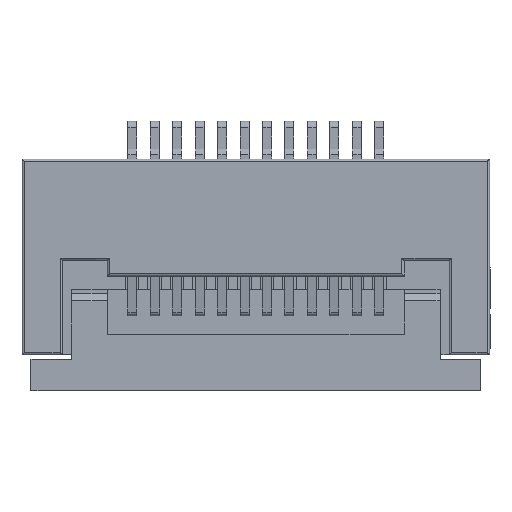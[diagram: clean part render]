
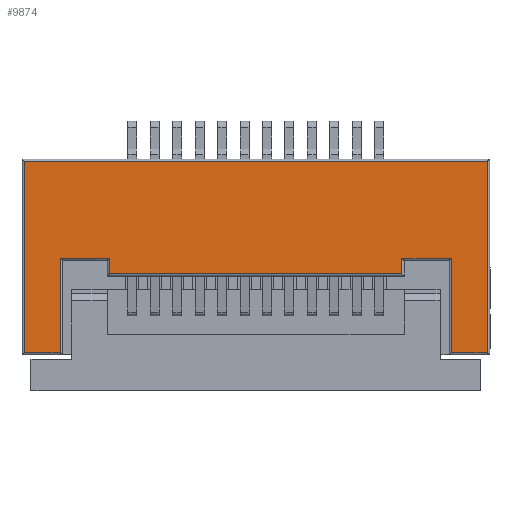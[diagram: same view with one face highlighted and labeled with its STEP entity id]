
A CAD part, top view. The second image highlights one B-rep face of the part: STEP entity #9874.
In plain terms, the highlighted planar face has unit normal (0, 0, 1).
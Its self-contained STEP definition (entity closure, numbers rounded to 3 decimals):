
#394 = ORIENTED_EDGE ( 'NONE', *, *, #14808, .T. ) ;
#684 = VECTOR ( 'NONE', #20167, 1000. ) ;
#1175 = CARTESIAN_POINT ( 'NONE',  ( -4.1, -2.175, 1. ) ) ;
#1505 = FACE_OUTER_BOUND ( 'NONE', #6935, .T. ) ;
#1624 = VERTEX_POINT ( 'NONE', #28980 ) ;
#2213 = ORIENTED_EDGE ( 'NONE', *, *, #17532, .T. ) ;
#2263 = EDGE_CURVE ( 'NONE', #1624, #13572, #32489, .T. ) ;
#2628 = DIRECTION ( 'NONE',  ( 0., 1., 0. ) ) ;
#2758 = ORIENTED_EDGE ( 'NONE', *, *, #28290, .T. ) ;
#2832 = DIRECTION ( 'NONE',  ( 0., -1., 0. ) ) ;
#2943 = CARTESIAN_POINT ( 'NONE',  ( -3., -0.075, 1. ) ) ;
#3125 = CARTESIAN_POINT ( 'NONE',  ( -1.25, -0.425, 1. ) ) ;
#3307 = DIRECTION ( 'NONE',  ( 1., 0., 0. ) ) ;
#3331 = CARTESIAN_POINT ( 'NONE',  ( 3.5, -0.075, 1. ) ) ;
#3686 = AXIS2_PLACEMENT_3D ( 'NONE', #9936, #22007, #23750 ) ;
#4470 = DIRECTION ( 'NONE',  ( 0., -1., 0. ) ) ;
#5072 = LINE ( 'NONE', #31067, #32311 ) ;
#6935 = EDGE_LOOP ( 'NONE', ( #29500, #17939, #9238, #29635, #2213, #36225, #394, #17999, #2758, #12953, #34436, #20889 ) ) ;
#7365 = EDGE_CURVE ( 'NONE', #23486, #37697, #9833, .T. ) ;
#8964 = CARTESIAN_POINT ( 'NONE',  ( 3.5, -1.075, 1. ) ) ;
#9079 = CARTESIAN_POINT ( 'NONE',  ( -1.25, -0.075, 1. ) ) ;
#9238 = ORIENTED_EDGE ( 'NONE', *, *, #26003, .T. ) ;
#9585 = CARTESIAN_POINT ( 'NONE',  ( -1.25, -2.175, 1. ) ) ;
#9736 = LINE ( 'NONE', #29978, #37760 ) ;
#9833 = LINE ( 'NONE', #9079, #11226 ) ;
#9874 = ADVANCED_FACE ( 'NONE', ( #1505 ), #24478, .F. ) ;
#9936 = CARTESIAN_POINT ( 'NONE',  ( -1.25, -1.075, 1. ) ) ;
#11226 = VECTOR ( 'NONE', #3307, 1000. ) ;
#12775 = VERTEX_POINT ( 'NONE', #15624 ) ;
#12953 = ORIENTED_EDGE ( 'NONE', *, *, #33070, .T. ) ;
#13517 = EDGE_CURVE ( 'NONE', #13572, #17255, #35807, .T. ) ;
#13572 = VERTEX_POINT ( 'NONE', #21840 ) ;
#13792 = CARTESIAN_POINT ( 'NONE',  ( -3., -1.075, 1. ) ) ;
#14136 = LINE ( 'NONE', #31141, #15897 ) ;
#14808 = EDGE_CURVE ( 'NONE', #35979, #22150, #33947, .T. ) ;
#14830 = DIRECTION ( 'NONE',  ( 1., 0., 0. ) ) ;
#15286 = DIRECTION ( 'NONE',  ( 0., 1., 0. ) ) ;
#15390 = VERTEX_POINT ( 'NONE', #16036 ) ;
#15624 = CARTESIAN_POINT ( 'NONE',  ( 3.5, -0.425, 1. ) ) ;
#15897 = VECTOR ( 'NONE', #2628, 1000. ) ;
#16036 = CARTESIAN_POINT ( 'NONE',  ( -3., -0.425, 1. ) ) ;
#16539 = CARTESIAN_POINT ( 'NONE',  ( 4.6, -1.075, 1. ) ) ;
#16742 = LINE ( 'NONE', #28752, #684 ) ;
#17094 = EDGE_CURVE ( 'NONE', #25215, #35979, #16742, .T. ) ;
#17255 = VERTEX_POINT ( 'NONE', #1175 ) ;
#17398 = VECTOR ( 'NONE', #25813, 1000. ) ;
#17532 = EDGE_CURVE ( 'NONE', #12775, #25215, #28852, .T. ) ;
#17939 = ORIENTED_EDGE ( 'NONE', *, *, #7365, .T. ) ;
#17999 = ORIENTED_EDGE ( 'NONE', *, *, #36510, .T. ) ;
#18213 = EDGE_CURVE ( 'NONE', #15390, #12775, #31463, .T. ) ;
#19499 = VECTOR ( 'NONE', #4470, 1000. ) ;
#19701 = CARTESIAN_POINT ( 'NONE',  ( 4.6, -2.175, 1. ) ) ;
#20167 = DIRECTION ( 'NONE',  ( 1., 0., 0. ) ) ;
#20598 = CARTESIAN_POINT ( 'NONE',  ( 5.4, -2.175, 1. ) ) ;
#20889 = ORIENTED_EDGE ( 'NONE', *, *, #13517, .T. ) ;
#21282 = DIRECTION ( 'NONE',  ( 1., 0., 0. ) ) ;
#21840 = CARTESIAN_POINT ( 'NONE',  ( -4.9, -2.175, 1. ) ) ;
#22007 = DIRECTION ( 'NONE',  ( 0., 0., -1. ) ) ;
#22150 = VERTEX_POINT ( 'NONE', #19701 ) ;
#22396 = VERTEX_POINT ( 'NONE', #20598 ) ;
#23486 = VERTEX_POINT ( 'NONE', #34945 ) ;
#23750 = DIRECTION ( 'NONE',  ( 0., 1., 0. ) ) ;
#23852 = VECTOR ( 'NONE', #14830, 1000. ) ;
#23955 = VECTOR ( 'NONE', #2832, 1000. ) ;
#24066 = CARTESIAN_POINT ( 'NONE',  ( 5.4, 2.075, 1. ) ) ;
#24478 = PLANE ( 'NONE',  #3686 ) ;
#25215 = VERTEX_POINT ( 'NONE', #3331 ) ;
#25345 = DIRECTION ( 'NONE',  ( -1., 0., 0. ) ) ;
#25813 = DIRECTION ( 'NONE',  ( 0., -1., 0. ) ) ;
#26003 = EDGE_CURVE ( 'NONE', #37697, #15390, #31724, .T. ) ;
#26025 = DIRECTION ( 'NONE',  ( 1., 0., 0. ) ) ;
#28290 = EDGE_CURVE ( 'NONE', #22396, #34833, #9736, .T. ) ;
#28752 = CARTESIAN_POINT ( 'NONE',  ( -1.25, -0.075, 1. ) ) ;
#28852 = LINE ( 'NONE', #8964, #34744 ) ;
#28980 = CARTESIAN_POINT ( 'NONE',  ( -4.9, 2.075, 1. ) ) ;
#29207 = DIRECTION ( 'NONE',  ( 0., 1., 0. ) ) ;
#29362 = CARTESIAN_POINT ( 'NONE',  ( 4.6, -0.075, 1. ) ) ;
#29411 = CARTESIAN_POINT ( 'NONE',  ( -4.9, -2.225, 1. ) ) ;
#29500 = ORIENTED_EDGE ( 'NONE', *, *, #34177, .T. ) ;
#29635 = ORIENTED_EDGE ( 'NONE', *, *, #18213, .T. ) ;
#29978 = CARTESIAN_POINT ( 'NONE',  ( 5.4, 2.125, 1. ) ) ;
#30694 = VECTOR ( 'NONE', #26025, 1000. ) ;
#31067 = CARTESIAN_POINT ( 'NONE',  ( -4.95, 2.075, 1. ) ) ;
#31141 = CARTESIAN_POINT ( 'NONE',  ( -4.1, -1.075, 1. ) ) ;
#31463 = LINE ( 'NONE', #3125, #23852 ) ;
#31724 = LINE ( 'NONE', #13792, #17398 ) ;
#32311 = VECTOR ( 'NONE', #25345, 1000. ) ;
#32489 = LINE ( 'NONE', #29411, #23955 ) ;
#33070 = EDGE_CURVE ( 'NONE', #34833, #1624, #5072, .T. ) ;
#33947 = LINE ( 'NONE', #16539, #19499 ) ;
#34177 = EDGE_CURVE ( 'NONE', #17255, #23486, #14136, .T. ) ;
#34436 = ORIENTED_EDGE ( 'NONE', *, *, #2263, .T. ) ;
#34490 = CARTESIAN_POINT ( 'NONE',  ( -1.25, -2.175, 1. ) ) ;
#34744 = VECTOR ( 'NONE', #29207, 1000. ) ;
#34833 = VERTEX_POINT ( 'NONE', #24066 ) ;
#34945 = CARTESIAN_POINT ( 'NONE',  ( -4.1, -0.075, 1. ) ) ;
#35807 = LINE ( 'NONE', #9585, #36213 ) ;
#35979 = VERTEX_POINT ( 'NONE', #29362 ) ;
#36213 = VECTOR ( 'NONE', #21282, 1000. ) ;
#36225 = ORIENTED_EDGE ( 'NONE', *, *, #17094, .T. ) ;
#36510 = EDGE_CURVE ( 'NONE', #22150, #22396, #37359, .T. ) ;
#37359 = LINE ( 'NONE', #34490, #30694 ) ;
#37697 = VERTEX_POINT ( 'NONE', #2943 ) ;
#37760 = VECTOR ( 'NONE', #15286, 1000. ) ;
